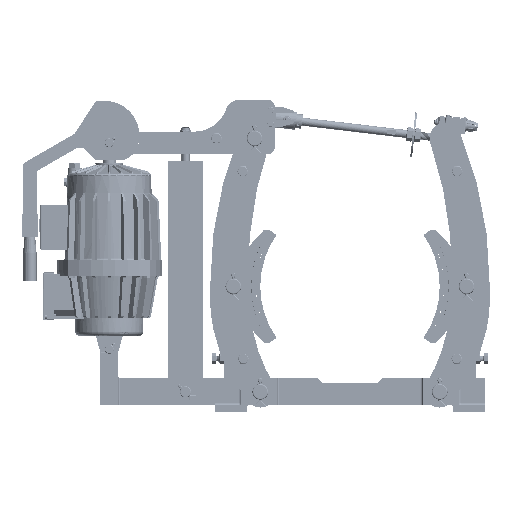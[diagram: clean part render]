
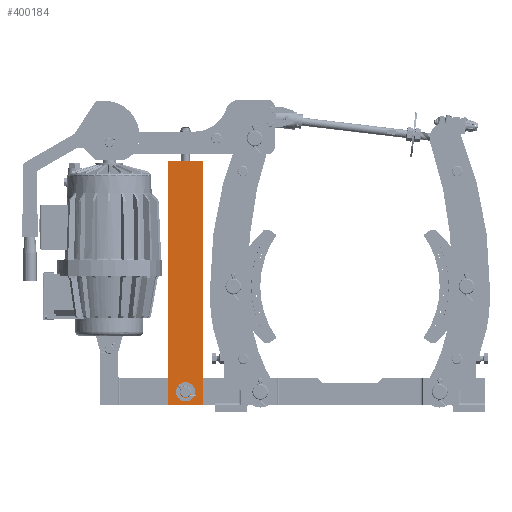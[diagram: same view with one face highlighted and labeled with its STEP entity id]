
A CAD part, left-side view. The second image highlights one B-rep face of the part: STEP entity #400184.
In plain terms, the highlighted planar face has unit normal (-1, 0, 0).
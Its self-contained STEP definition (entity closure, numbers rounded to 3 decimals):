
#400023=DIRECTION('',(0.,-1.,0.));
#400024=VECTOR('',#400023,80.);
#400025=CARTESIAN_POINT('',(-115.,706.503,559.));
#400026=LINE('',#400025,#400024);
#400030=DIRECTION('',(0.,0.,-1.));
#400031=VECTOR('',#400030,544.);
#400032=CARTESIAN_POINT('',(-115.,626.503,559.));
#400033=LINE('',#400032,#400031);
#400037=DIRECTION('',(0.,1.,0.));
#400038=VECTOR('',#400037,80.);
#400039=CARTESIAN_POINT('',(-115.,626.503,15.));
#400040=LINE('',#400039,#400038);
#400044=DIRECTION('',(0.,0.,1.));
#400045=VECTOR('',#400044,544.);
#400046=CARTESIAN_POINT('',(-115.,706.503,15.));
#400047=LINE('',#400046,#400045);
#400051=CARTESIAN_POINT('',(-115.,666.503,57.5));
#400052=CARTESIAN_POINT('',(-115.,666.889,57.5));
#400053=CARTESIAN_POINT('',(-115.,667.658,57.464));
#400054=CARTESIAN_POINT('',(-115.,668.803,57.305));
#400055=CARTESIAN_POINT('',(-115.,669.929,57.04));
#400056=CARTESIAN_POINT('',(-115.,671.024,56.673));
#400057=CARTESIAN_POINT('',(-115.,672.083,56.205));
#400058=CARTESIAN_POINT('',(-115.,673.094,55.642));
#400059=CARTESIAN_POINT('',(-115.,674.048,54.988));
#400060=CARTESIAN_POINT('',(-115.,674.938,54.249));
#400061=CARTESIAN_POINT('',(-115.,675.755,53.431));
#400062=CARTESIAN_POINT('',(-115.,676.493,52.542));
#400063=CARTESIAN_POINT('',(-115.,677.147,51.588));
#400064=CARTESIAN_POINT('',(-115.,677.709,50.578));
#400065=CARTESIAN_POINT('',(-115.,678.176,49.52));
#400066=CARTESIAN_POINT('',(-115.,678.543,48.425));
#400067=CARTESIAN_POINT('',(-115.,678.807,47.301));
#400068=CARTESIAN_POINT('',(-115.,678.967,46.155));
#400069=CARTESIAN_POINT('',(-115.,679.003,45.386));
#400070=CARTESIAN_POINT('',(-115.,679.003,45.));
#400075=CARTESIAN_POINT('',(-115.,679.003,45.));
#400076=CARTESIAN_POINT('',(-115.,679.003,44.614));
#400077=CARTESIAN_POINT('',(-115.,678.967,43.845));
#400078=CARTESIAN_POINT('',(-115.,678.807,42.699));
#400079=CARTESIAN_POINT('',(-115.,678.543,41.574));
#400080=CARTESIAN_POINT('',(-115.,678.175,40.479));
#400081=CARTESIAN_POINT('',(-115.,677.708,39.419));
#400082=CARTESIAN_POINT('',(-115.,677.145,38.409));
#400083=CARTESIAN_POINT('',(-115.,676.491,37.454));
#400084=CARTESIAN_POINT('',(-115.,675.752,36.565));
#400085=CARTESIAN_POINT('',(-115.,674.934,35.748));
#400086=CARTESIAN_POINT('',(-115.,674.045,35.009));
#400087=CARTESIAN_POINT('',(-115.,673.091,34.356));
#400088=CARTESIAN_POINT('',(-115.,672.081,33.794));
#400089=CARTESIAN_POINT('',(-115.,671.023,33.327));
#400090=CARTESIAN_POINT('',(-115.,669.928,32.96));
#400091=CARTESIAN_POINT('',(-115.,668.804,32.695));
#400092=CARTESIAN_POINT('',(-115.,667.658,32.536));
#400093=CARTESIAN_POINT('',(-115.,666.889,32.5));
#400094=CARTESIAN_POINT('',(-115.,666.503,32.5));
#400099=CARTESIAN_POINT('',(-115.,666.503,32.5));
#400100=CARTESIAN_POINT('',(-115.,666.117,32.5));
#400101=CARTESIAN_POINT('',(-115.,665.348,32.536));
#400102=CARTESIAN_POINT('',(-115.,664.202,32.695));
#400103=CARTESIAN_POINT('',(-115.,663.077,32.96));
#400104=CARTESIAN_POINT('',(-115.,661.981,33.327));
#400105=CARTESIAN_POINT('',(-115.,660.922,33.795));
#400106=CARTESIAN_POINT('',(-115.,659.911,34.358));
#400107=CARTESIAN_POINT('',(-115.,658.957,35.012));
#400108=CARTESIAN_POINT('',(-115.,658.068,35.751));
#400109=CARTESIAN_POINT('',(-115.,657.25,36.569));
#400110=CARTESIAN_POINT('',(-115.,656.512,37.458));
#400111=CARTESIAN_POINT('',(-115.,655.859,38.412));
#400112=CARTESIAN_POINT('',(-115.,655.296,39.422));
#400113=CARTESIAN_POINT('',(-115.,654.829,40.48));
#400114=CARTESIAN_POINT('',(-115.,654.463,41.575));
#400115=CARTESIAN_POINT('',(-115.,654.198,42.699));
#400116=CARTESIAN_POINT('',(-115.,654.038,43.845));
#400117=CARTESIAN_POINT('',(-115.,654.003,44.614));
#400118=CARTESIAN_POINT('',(-115.,654.003,45.));
#400123=CARTESIAN_POINT('',(-115.,654.003,45.));
#400124=CARTESIAN_POINT('',(-115.,654.003,45.386));
#400125=CARTESIAN_POINT('',(-115.,654.038,46.155));
#400126=CARTESIAN_POINT('',(-115.,654.198,47.301));
#400127=CARTESIAN_POINT('',(-115.,654.463,48.426));
#400128=CARTESIAN_POINT('',(-115.,654.83,49.521));
#400129=CARTESIAN_POINT('',(-115.,655.298,50.581));
#400130=CARTESIAN_POINT('',(-115.,655.861,51.591));
#400131=CARTESIAN_POINT('',(-115.,656.515,52.546));
#400132=CARTESIAN_POINT('',(-115.,657.254,53.435));
#400133=CARTESIAN_POINT('',(-115.,658.071,54.252));
#400134=CARTESIAN_POINT('',(-115.,658.961,54.991));
#400135=CARTESIAN_POINT('',(-115.,659.915,55.644));
#400136=CARTESIAN_POINT('',(-115.,660.925,56.206));
#400137=CARTESIAN_POINT('',(-115.,661.983,56.673));
#400138=CARTESIAN_POINT('',(-115.,663.077,57.04));
#400139=CARTESIAN_POINT('',(-115.,664.202,57.305));
#400140=CARTESIAN_POINT('',(-115.,665.347,57.464));
#400141=CARTESIAN_POINT('',(-115.,666.116,57.5));
#400142=CARTESIAN_POINT('',(-115.,666.503,57.5));
#400147=CARTESIAN_POINT('',(-115.,706.503,559.));
#400148=CARTESIAN_POINT('',(-115.,626.503,559.));
#400149=VERTEX_POINT('',#400147);
#400150=VERTEX_POINT('',#400148);
#400151=CARTESIAN_POINT('',(-115.,626.503,15.));
#400152=VERTEX_POINT('',#400151);
#400153=CARTESIAN_POINT('',(-115.,706.503,15.));
#400154=VERTEX_POINT('',#400153);
#400155=VERTEX_POINT('',#400051);
#400156=VERTEX_POINT('',#400070);
#400157=VERTEX_POINT('',#400094);
#400158=VERTEX_POINT('',#400118);
#400159=CARTESIAN_POINT('',(-115.,666.503,287.));
#400160=DIRECTION('',(1.,0.,0.));
#400161=DIRECTION('',(0.,0.,-1.));
#400162=AXIS2_PLACEMENT_3D('',#400159,#400160,#400161);
#400163=PLANE('',#400162);
#400165=ORIENTED_EDGE('',*,*,#400164,.T.);
#400167=ORIENTED_EDGE('',*,*,#400166,.T.);
#400169=ORIENTED_EDGE('',*,*,#400168,.T.);
#400171=ORIENTED_EDGE('',*,*,#400170,.T.);
#400172=EDGE_LOOP('',(#400165,#400167,#400169,#400171));
#400173=FACE_OUTER_BOUND('',#400172,.F.);
#400175=ORIENTED_EDGE('',*,*,#400174,.T.);
#400177=ORIENTED_EDGE('',*,*,#400176,.T.);
#400179=ORIENTED_EDGE('',*,*,#400178,.T.);
#400181=ORIENTED_EDGE('',*,*,#400180,.T.);
#400182=EDGE_LOOP('',(#400175,#400177,#400179,#400181));
#400183=FACE_BOUND('',#400182,.F.);
#400184=ADVANCED_FACE('',(#400173,#400183),#400163,.F.);
#400071=B_SPLINE_CURVE_WITH_KNOTS('',3,(#400051,#400052,#400053,#400054,#400055,
#400056,#400057,#400058,#400059,#400060,#400061,#400062,#400063,#400064,#400065,
#400066,#400067,#400068,#400069,#400070),.UNSPECIFIED.,.F.,.F.,(4,1,1,1,1,1,1,1,
1,1,1,1,1,1,1,1,1,4),(0.,0.059,0.118,
0.176,0.235,0.294,0.353,
0.412,0.471,0.529,0.588,
0.647,0.706,0.765,0.824,
0.882,0.941,1.),.UNSPECIFIED.);
#400095=B_SPLINE_CURVE_WITH_KNOTS('',3,(#400075,#400076,#400077,#400078,#400079,
#400080,#400081,#400082,#400083,#400084,#400085,#400086,#400087,#400088,#400089,
#400090,#400091,#400092,#400093,#400094),.UNSPECIFIED.,.F.,.F.,(4,1,1,1,1,1,1,1,
1,1,1,1,1,1,1,1,1,4),(0.,0.059,0.118,
0.176,0.235,0.294,0.353,
0.412,0.471,0.529,0.588,
0.647,0.706,0.765,0.824,
0.882,0.941,1.),.UNSPECIFIED.);
#400119=B_SPLINE_CURVE_WITH_KNOTS('',3,(#400099,#400100,#400101,#400102,#400103,
#400104,#400105,#400106,#400107,#400108,#400109,#400110,#400111,#400112,#400113,
#400114,#400115,#400116,#400117,#400118),.UNSPECIFIED.,.F.,.F.,(4,1,1,1,1,1,1,1,
1,1,1,1,1,1,1,1,1,4),(0.,0.059,0.118,
0.176,0.235,0.294,0.353,
0.412,0.471,0.529,0.588,
0.647,0.706,0.765,0.824,
0.882,0.941,1.),.UNSPECIFIED.);
#400143=B_SPLINE_CURVE_WITH_KNOTS('',3,(#400123,#400124,#400125,#400126,#400127,
#400128,#400129,#400130,#400131,#400132,#400133,#400134,#400135,#400136,#400137,
#400138,#400139,#400140,#400141,#400142),.UNSPECIFIED.,.F.,.F.,(4,1,1,1,1,1,1,1,
1,1,1,1,1,1,1,1,1,4),(0.,0.059,0.118,
0.176,0.235,0.294,0.353,
0.412,0.471,0.529,0.588,
0.647,0.706,0.765,0.824,
0.882,0.941,1.),.UNSPECIFIED.);
#400164=EDGE_CURVE('',#400149,#400150,#400026,.T.);
#400166=EDGE_CURVE('',#400150,#400152,#400033,.T.);
#400168=EDGE_CURVE('',#400152,#400154,#400040,.T.);
#400170=EDGE_CURVE('',#400154,#400149,#400047,.T.);
#400174=EDGE_CURVE('',#400155,#400156,#400071,.T.);
#400176=EDGE_CURVE('',#400156,#400157,#400095,.T.);
#400178=EDGE_CURVE('',#400157,#400158,#400119,.T.);
#400180=EDGE_CURVE('',#400158,#400155,#400143,.T.);
